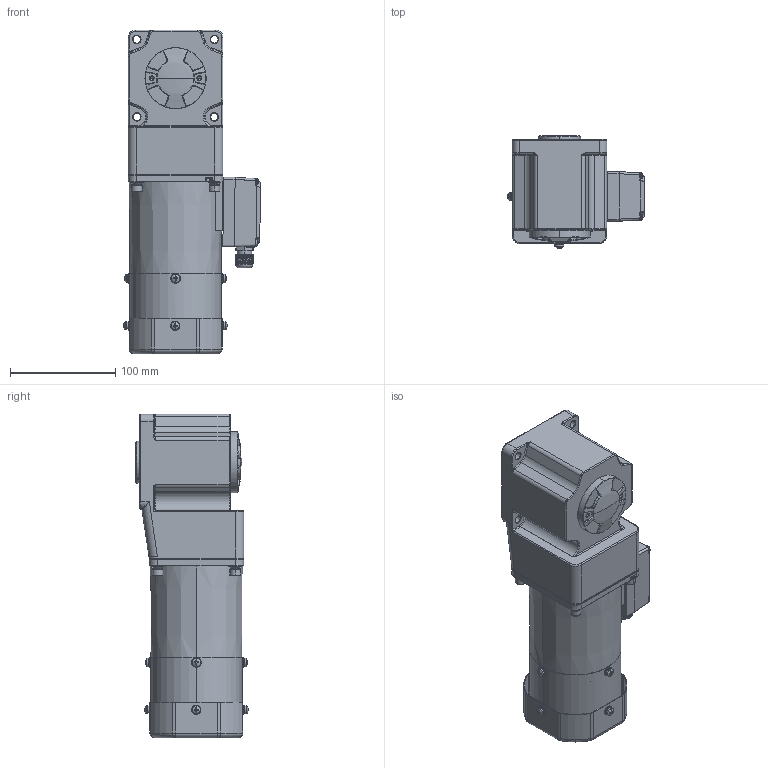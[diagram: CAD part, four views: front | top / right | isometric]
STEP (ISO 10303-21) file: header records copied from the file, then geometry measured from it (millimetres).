
FILE_DESCRIPTION (( 'STEP AP203' ), '1' );
FILE_NAME ('5RK60GU-CMFT(5GU3RC-180RC).STEP', '2020-04-28T07:47:56', ( 'Windows 蚚誧' ), ( '' ), 'SwSTEP 2.0', 'SolidWorks 2019', '' );
FILE_SCHEMA (( 'CONFIG_CONTROL_DESIGN' ));
Length unit declared in the file: millimetre
Products named in the file (3): 5RK60A-CMFT; 90RC; 5RK60GU-CMFT(5GU3RC-180RC)
Assembly tree (2 placements, depth 2):
  5RK60GU-CMFT(5GU3RC-180RC)
    5RK60A-CMFT
    90RC
Bounding box: 129.69 x 106.56 x 307 mm (x, y, z)
Volume: 1020602.6 mm3; surface area: 331370.8 mm2
Topology: 46 solids, 49 shells, 3669 faces, 9205 edges, 5528 vertices
Faces by surface type: cylinder 1188, plane 887, cone 767, torus 469, bspline 198, sphere 160
Entity records: 124012 total; most frequent: CARTESIAN_POINT 36836, DIRECTION 19208, ORIENTED_EDGE 18022, EDGE_CURVE 9011, AXIS2_PLACEMENT_3D 7997, VERTEX_POINT 5518, CIRCLE 4521, EDGE_LOOP 3853
